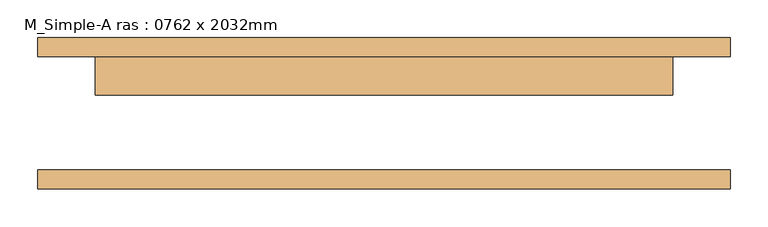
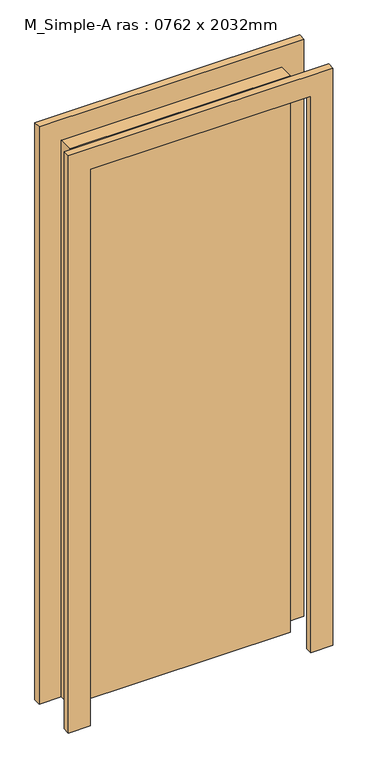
"""IFC4 building model written with IfcOpenShell, lengths in millimetres: door geometry, M_Simple-A ras : 0762 x 2032mm."""

from ifc_helpers import new_model, si_unit, frame, origin, origin_with_axes, place, context, project, spatial, polyline, outline, extrude, source, transform, mapped, element, save


def m_simple_a_ras_0762_x_2032mm_3f592dcc(model_context):
    return source(origin(), model_context, "Body", "SweptSolid", [
        extrude(outline(polyline([(2108.0, -457.0), (0.0, -457.0), (0.0, -381.0), (2032.0, -381.0), (2032.0, 381.0), (0.0, 381.0), (0.0, 457.0), (2108.0, 457.0), (2108.0, -457.0)])), frame((0.0, 75.0, 0.0), z_axis=(0.0, 1.0, 0.0), x_axis=(0.0, 0.0, 1.0)), (0.0, 0.0, 1.0), 25.0),
        extrude(outline(polyline([(2108.0, 457.0), (2108.0, -457.0), (0.0, -457.0), (0.0, -381.0), (2032.0, -381.0), (2032.0, 381.0), (0.0, 381.0), (0.0, 457.0), (2108.0, 457.0)])), frame((0.0, -100.0, 0.0), z_axis=(0.0, 1.0, 0.0), x_axis=(0.0, 0.0, 1.0)), (0.0, 0.0, 1.0), 25.0),
        extrude(outline(polyline([(381.0, 24.0), (-381.0, 24.0), (-381.0, 75.0), (381.0, 75.0), (381.0, 24.0)])), origin_with_axes(), (0.0, 0.0, 1.0), 2032.0),
    ])


if __name__ == "__main__":
    model = new_model("IFC4")
    model_context = context("Model", 3, world=origin())
    ifc_project = project(units=[si_unit("LENGTHUNIT", "METRE", prefix="MILLI")], contexts=[model_context])
    site = spatial("IfcSite", under=ifc_project)
    building = spatial("IfcBuilding", under=site)
    placement = place(None, origin())
    m_simple_a_ras_0762_x_2032mm_shape = m_simple_a_ras_0762_x_2032mm_3f592dcc(model_context)
    element("IfcDoor", 1, ObjectType="M_Simple-A ras : 0762 x 2032mm", at=placement, inside=building, context=model_context, shape_type="MappedRepresentation", body=[
        mapped(m_simple_a_ras_0762_x_2032mm_shape, transform((0.0, 0.0, 0.0), x_axis=(1.0, 0.0, 0.0), y_axis=(0.0, 1.0, 0.0), z_axis=(0.0, 0.0, 1.0))),
    ])
    save(model, "model.ifc")
